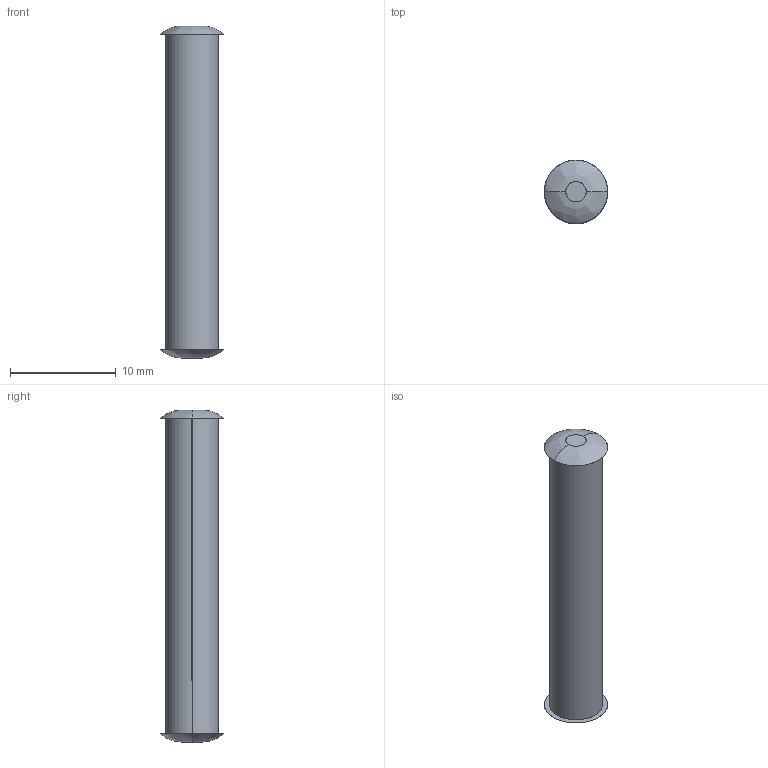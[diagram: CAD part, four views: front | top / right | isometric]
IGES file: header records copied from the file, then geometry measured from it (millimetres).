
Start section: SolidWorks IGES FILE using analytic representation for surfaces
Global section: file name: C:\Documents and Settings\lecoutey\Bureau\GO 33\31.040.10.IGS; native system: SolidWorks 2004 by SolidWorks Corporation; preprocessor: Version 5.3; author: lecoutey; date: 050329.114402; units: millimetre
Bounding box: 6 x 6 x 31.4 mm (x, y, z)
Surface area: 548.4 mm2 (no closed solid volume)
Topology: 0 solids, 0 shells, 10 faces, 216 edges, 216 vertices
Faces by surface type: bspline 8, revolution 2
